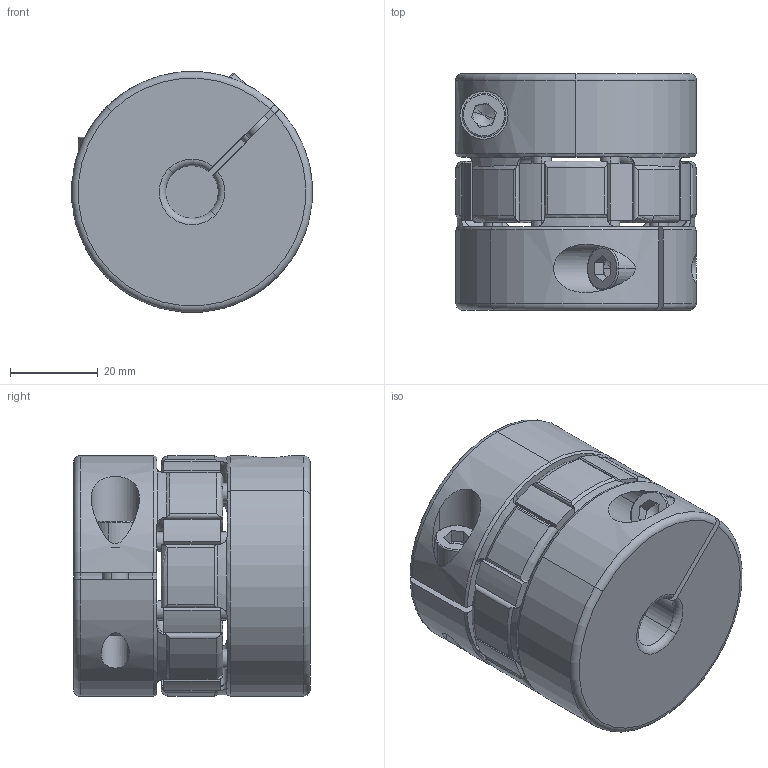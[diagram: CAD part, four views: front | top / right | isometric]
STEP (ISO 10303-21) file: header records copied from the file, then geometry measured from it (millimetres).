
FILE_DESCRIPTION (( 'STEP AP203' ), '1' );
FILE_NAME ('DXA-55X54-12-12.STEP', '2023-10-18T05:57:56', ( '' ), ( '' ), 'SwSTEP 2.0', 'SolidWorks 2020', '' );
FILE_SCHEMA (( 'CONFIG_CONTROL_DESIGN' ));
Length unit declared in the file: millimetre
Products named in the file (4): DXA-55X54-12-12; 55繩豪菜; socket head cap screw_iso_ISO 4762 M6 x 20 - 20C; 55X54標踡倰傷窒璃
Assembly tree (5 placements, depth 2):
  DXA-55X54-12-12
    55繩豪菜
    55X54標踡倰傷窒璃  x2
    socket head cap screw_iso_ISO 4762 M6 x 20 - 20C  x2
Bounding box: 54.99 x 54 x 55 mm (x, y, z)
Volume: 115826.8 mm3; surface area: 32528.1 mm2
Topology: 5 solids, 5 shells, 391 faces, 977 edges, 616 vertices
Faces by surface type: cylinder 191, torus 110, plane 68, cone 22
Entity records: 8115 total; most frequent: CARTESIAN_POINT 1828, DIRECTION 1345, ORIENTED_EDGE 1174, AXIS2_PLACEMENT_3D 588, EDGE_CURVE 587, VERTEX_POINT 375, CIRCLE 342, EDGE_LOOP 262
